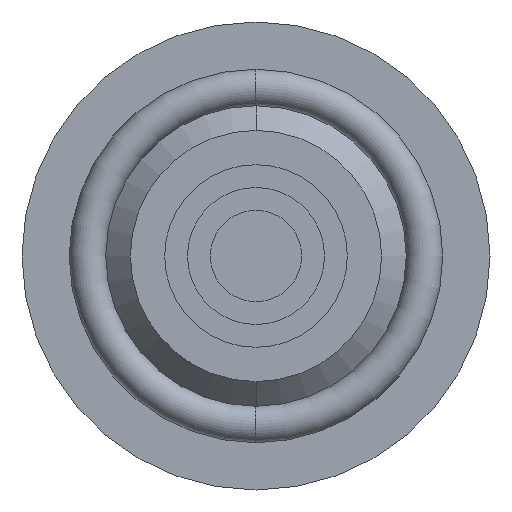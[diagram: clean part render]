
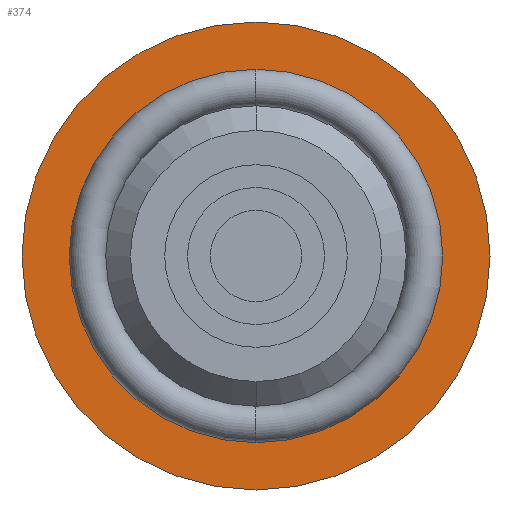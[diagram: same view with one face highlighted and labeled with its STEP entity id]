
A CAD part, front view. The second image highlights one B-rep face of the part: STEP entity #374.
In plain terms, the highlighted planar face has unit normal (0, -1, 0).
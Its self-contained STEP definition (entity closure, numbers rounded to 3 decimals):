
#5 = AXIS2_PLACEMENT_3D ( 'NONE', #34, #21, #18 ) ;
#6 = CARTESIAN_POINT ( 'NONE',  ( 0., 0., 6.579 ) ) ;
#18 = DIRECTION ( 'NONE',  ( 0., 0., -1. ) ) ;
#20 = CIRCLE ( 'NONE', #5, 6.579 ) ;
#21 = DIRECTION ( 'NONE',  ( 0., -1., 0. ) ) ;
#34 = CARTESIAN_POINT ( 'NONE',  ( 0., 0., 0. ) ) ;
#311 = EDGE_CURVE ( 'NONE', #4470, #3937, #902, .T. ) ;
#374 = ADVANCED_FACE ( 'NONE', ( #822, #815 ), #904, .T. ) ;
#375 = ORIENTED_EDGE ( 'NONE', *, *, #3929, .T. ) ;
#383 = ORIENTED_EDGE ( 'NONE', *, *, #311, .F. ) ;
#395 = EDGE_LOOP ( 'NONE', ( #399, #383 ) ) ;
#396 = ORIENTED_EDGE ( 'NONE', *, *, #464, .T. ) ;
#399 = ORIENTED_EDGE ( 'NONE', *, *, #4462, .F. ) ;
#401 = EDGE_LOOP ( 'NONE', ( #375, #396 ) ) ;
#464 = EDGE_CURVE ( 'NONE', #3922, #3930, #1011, .T. ) ;
#699 = DIRECTION ( 'NONE',  ( 0., 0., -1. ) ) ;
#787 = CARTESIAN_POINT ( 'NONE',  ( 0., 0., 0. ) ) ;
#793 = AXIS2_PLACEMENT_3D ( 'NONE', #801, #821, #699 ) ;
#801 = CARTESIAN_POINT ( 'NONE',  ( 10.25, 0., 0. ) ) ;
#815 = FACE_BOUND ( 'NONE', #395, .T. ) ;
#821 = DIRECTION ( 'NONE',  ( 0., -1., 0. ) ) ;
#822 = FACE_OUTER_BOUND ( 'NONE', #401, .T. ) ;
#875 = DIRECTION ( 'NONE',  ( 0., 0., -1. ) ) ;
#876 = DIRECTION ( 'NONE',  ( 0., -1., 0. ) ) ;
#886 = AXIS2_PLACEMENT_3D ( 'NONE', #787, #876, #875 ) ;
#902 = CIRCLE ( 'NONE', #886, 6.579 ) ;
#904 = PLANE ( 'NONE',  #793 ) ;
#1002 = DIRECTION ( 'NONE',  ( 0., 0., -1. ) ) ;
#1003 = DIRECTION ( 'NONE',  ( 0., -1., 0. ) ) ;
#1004 = CARTESIAN_POINT ( 'NONE',  ( 0., 0., 0. ) ) ;
#1005 = AXIS2_PLACEMENT_3D ( 'NONE', #1004, #1003, #1002 ) ;
#1011 = CIRCLE ( 'NONE', #1005, 10.25 ) ;
#1745 = CARTESIAN_POINT ( 'NONE',  ( 0., 0., 0. ) ) ;
#1970 = DIRECTION ( 'NONE',  ( 0., 0., -1. ) ) ;
#1971 = DIRECTION ( 'NONE',  ( 0., -1., 0. ) ) ;
#2315 = AXIS2_PLACEMENT_3D ( 'NONE', #1745, #1971, #1970 ) ;
#2316 = CIRCLE ( 'NONE', #2315, 10.25 ) ;
#2501 = CARTESIAN_POINT ( 'NONE',  ( 0., 0., -10.25 ) ) ;
#2516 = CARTESIAN_POINT ( 'NONE',  ( 0., 0., 10.25 ) ) ;
#2565 = CARTESIAN_POINT ( 'NONE',  ( 0., 0., -6.579 ) ) ;
#3922 = VERTEX_POINT ( 'NONE', #2516 ) ;
#3929 = EDGE_CURVE ( 'NONE', #3930, #3922, #2316, .T. ) ;
#3930 = VERTEX_POINT ( 'NONE', #2501 ) ;
#3937 = VERTEX_POINT ( 'NONE', #2565 ) ;
#4462 = EDGE_CURVE ( 'NONE', #3937, #4470, #20, .T. ) ;
#4470 = VERTEX_POINT ( 'NONE', #6 ) ;
